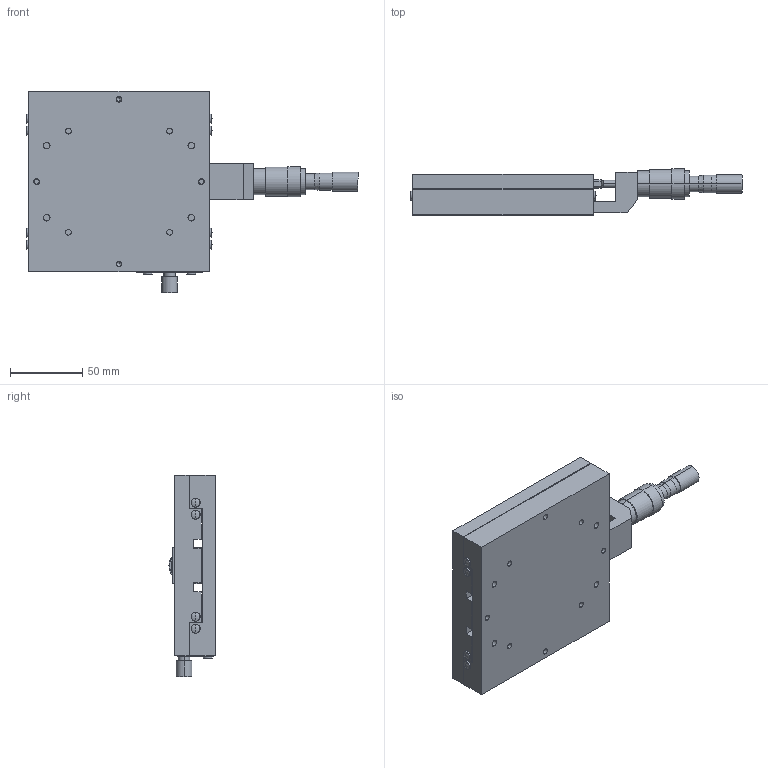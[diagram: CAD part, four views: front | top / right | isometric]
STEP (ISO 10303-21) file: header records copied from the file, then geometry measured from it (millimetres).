
FILE_DESCRIPTION (( 'STEP AP203' ), '1' );
FILE_NAME ('LS-141-C2.STEP', '2008-04-04T00:14:36', ( '' ), ( '' ), 'SwSTEP 2.0', 'SolidWorks 2007', '' );
FILE_SCHEMA (( 'CONFIG_CONTROL_DESIGN' ));
Length unit declared in the file: millimetre
Products named in the file (3): LS-141-C2; LS-141-C2-1_蹬怮椔; LS-141-C2-2_蹬怮椔
Assembly tree (2 placements, depth 2):
  LS-141-C2
    LS-141-C2-1_蹬怮椔
    LS-141-C2-2_蹬怮椔
Bounding box: 229.9 x 32 x 139.3 mm (x, y, z)
Volume: 441979.8 mm3; surface area: 99839.1 mm2
Topology: 3 solids, 3 shells, 334 faces, 798 edges, 507 vertices
Faces by surface type: cylinder 169, plane 99, cone 46, sphere 18, bspline 2
Entity records: 10457 total; most frequent: CARTESIAN_POINT 2034, DIRECTION 1848, ORIENTED_EDGE 1548, EDGE_CURVE 774, AXIS2_PLACEMENT_3D 741, VERTEX_POINT 507, EDGE_LOOP 449, CIRCLE 404
